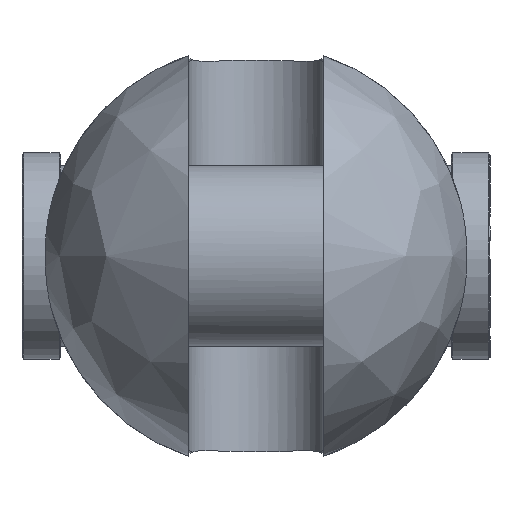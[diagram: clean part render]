
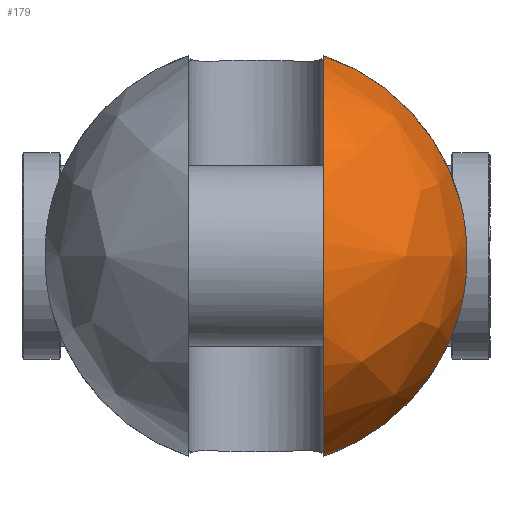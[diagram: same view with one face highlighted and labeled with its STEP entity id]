
A CAD part, left-side view. The second image highlights one B-rep face of the part: STEP entity #179.
In plain terms, the highlighted free-form (B-spline) face has degree [2, 2] with [9, 5] control points.
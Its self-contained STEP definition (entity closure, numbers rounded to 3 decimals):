
#179=ADVANCED_FACE('',(#320),#2412,.T.);
#320=FACE_OUTER_BOUND('',#481,.T.);
#481=EDGE_LOOP('',(#1192,#1193,#1194,#1195));
#1192=ORIENTED_EDGE('',*,*,#1574,.T.);
#1193=ORIENTED_EDGE('',*,*,#1600,.F.);
#1194=ORIENTED_EDGE('',*,*,#1612,.T.);
#1195=ORIENTED_EDGE('',*,*,#1592,.F.);
#1574=EDGE_CURVE('',#2244,#2243,#1979,.T.);
#1592=EDGE_CURVE('',#2244,#2256,#1989,.T.);
#1600=EDGE_CURVE('',#2263,#2243,#1990,.T.);
#1612=EDGE_CURVE('',#2263,#2256,#1786,.T.);
#1786=B_SPLINE_CURVE_WITH_KNOTS('',3,(#6134,#6135,#6136,#6137,#6138,#6139,
#6140,#6141,#6142,#6143,#6144,#6145,#6146,#6147),.UNSPECIFIED.,.F.,.F.,
(4,2,2,2,2,2,4),(0.,4.76,11.187,17.614,
24.04,30.467,35.227),.UNSPECIFIED.);
#1979=(
BOUNDED_CURVE()
B_SPLINE_CURVE(2,(#5890,#5891,#5892,#5893,#5894),.UNSPECIFIED.,.F.,.F.)
B_SPLINE_CURVE_WITH_KNOTS((3,2,3),(-194.912,-97.456,0.),
 .UNSPECIFIED.)
CURVE()
GEOMETRIC_REPRESENTATION_ITEM()
RATIONAL_B_SPLINE_CURVE((1.,0.707,1.,0.707,1.))
REPRESENTATION_ITEM('')
);
#1989=(
BOUNDED_CURVE()
B_SPLINE_CURVE(2,(#6004,#6005,#6006),.UNSPECIFIED.,.F.,.F.)
B_SPLINE_CURVE_WITH_KNOTS((3,3),(0.,64.69),.UNSPECIFIED.)
CURVE()
GEOMETRIC_REPRESENTATION_ITEM()
RATIONAL_B_SPLINE_CURVE((1.,0.881,1.))
REPRESENTATION_ITEM('')
);
#1990=(
BOUNDED_CURVE()
B_SPLINE_CURVE(2,(#6061,#6062,#6063),.UNSPECIFIED.,.F.,.F.)
B_SPLINE_CURVE_WITH_KNOTS((3,3),(0.,64.69),.UNSPECIFIED.)
CURVE()
GEOMETRIC_REPRESENTATION_ITEM()
RATIONAL_B_SPLINE_CURVE((1.,0.881,1.))
REPRESENTATION_ITEM('')
);
#2243=VERTEX_POINT('',#5762);
#2244=VERTEX_POINT('',#5763);
#2256=VERTEX_POINT('',#5775);
#2263=VERTEX_POINT('',#5782);
#2412=(
BOUNDED_SURFACE()
B_SPLINE_SURFACE(2,2,((#5476,#5477,#5478,#5479,#5480),(#5481,#5482,#5483,
#5484,#5485),(#5486,#5487,#5488,#5489,#5490),(#5491,#5492,#5493,#5494,#5495),
(#5496,#5497,#5498,#5499,#5500),(#5501,#5502,#5503,#5504,#5505),(#5506,
#5507,#5508,#5509,#5510),(#5511,#5512,#5513,#5514,#5515),(#5516,#5517,#5518,
#5519,#5520)),.UNSPECIFIED.,.T.,.F.,.F.)
B_SPLINE_SURFACE_WITH_KNOTS((3,2,2,2,3),(3,2,3),(0.,102.887,205.774,
308.661,411.549),(0.,102.887,205.774),
 .UNSPECIFIED.)
GEOMETRIC_REPRESENTATION_ITEM()
RATIONAL_B_SPLINE_SURFACE(((1.,0.707,1.,0.707,1.),
(0.707,0.5,0.707,0.5,0.707),(1.,0.707,
1.,0.707,1.),(0.707,0.5,0.707,0.5,0.707),
(1.,0.707,1.,0.707,1.),(0.707,0.5,0.707,
0.5,0.707),(1.,0.707,1.,0.707,1.),(0.707,
0.5,0.707,0.5,0.707),(1.,0.707,1.,0.707,
1.)))
REPRESENTATION_ITEM('')
SURFACE()
);
#5476=CARTESIAN_POINT('',(-94.,0.,0.));
#5477=CARTESIAN_POINT('',(-94.,65.5,0.));
#5478=CARTESIAN_POINT('',(-28.5,65.5,0.));
#5479=CARTESIAN_POINT('',(37.,65.5,0.));
#5480=CARTESIAN_POINT('',(37.,0.,0.));
#5481=CARTESIAN_POINT('',(-94.,0.,0.));
#5482=CARTESIAN_POINT('',(-94.,65.5,65.5));
#5483=CARTESIAN_POINT('',(-28.5,65.5,65.5));
#5484=CARTESIAN_POINT('',(37.,65.5,65.5));
#5485=CARTESIAN_POINT('',(37.,0.,0.));
#5486=CARTESIAN_POINT('',(-94.,0.,0.));
#5487=CARTESIAN_POINT('',(-94.,0.,65.5));
#5488=CARTESIAN_POINT('',(-28.5,0.,65.5));
#5489=CARTESIAN_POINT('',(37.,0.,65.5));
#5490=CARTESIAN_POINT('',(37.,0.,0.));
#5491=CARTESIAN_POINT('',(-94.,0.,0.));
#5492=CARTESIAN_POINT('',(-94.,-65.5,65.5));
#5493=CARTESIAN_POINT('',(-28.5,-65.5,65.5));
#5494=CARTESIAN_POINT('',(37.,-65.5,65.5));
#5495=CARTESIAN_POINT('',(37.,0.,0.));
#5496=CARTESIAN_POINT('',(-94.,0.,0.));
#5497=CARTESIAN_POINT('',(-94.,-65.5,0.));
#5498=CARTESIAN_POINT('',(-28.5,-65.5,0.));
#5499=CARTESIAN_POINT('',(37.,-65.5,0.));
#5500=CARTESIAN_POINT('',(37.,0.,0.));
#5501=CARTESIAN_POINT('',(-94.,0.,0.));
#5502=CARTESIAN_POINT('',(-94.,-65.5,-65.5));
#5503=CARTESIAN_POINT('',(-28.5,-65.5,-65.5));
#5504=CARTESIAN_POINT('',(37.,-65.5,-65.5));
#5505=CARTESIAN_POINT('',(37.,0.,0.));
#5506=CARTESIAN_POINT('',(-94.,0.,0.));
#5507=CARTESIAN_POINT('',(-94.,0.,-65.5));
#5508=CARTESIAN_POINT('',(-28.5,0.,-65.5));
#5509=CARTESIAN_POINT('',(37.,0.,-65.5));
#5510=CARTESIAN_POINT('',(37.,0.,0.));
#5511=CARTESIAN_POINT('',(-94.,0.,0.));
#5512=CARTESIAN_POINT('',(-94.,65.5,-65.5));
#5513=CARTESIAN_POINT('',(-28.5,65.5,-65.5));
#5514=CARTESIAN_POINT('',(37.,65.5,-65.5));
#5515=CARTESIAN_POINT('',(37.,0.,0.));
#5516=CARTESIAN_POINT('',(-94.,0.,0.));
#5517=CARTESIAN_POINT('',(-94.,65.5,0.));
#5518=CARTESIAN_POINT('',(-28.5,65.5,0.));
#5519=CARTESIAN_POINT('',(37.,65.5,0.));
#5520=CARTESIAN_POINT('',(37.,0.,0.));
#5762=CARTESIAN_POINT('',(-28.5,-21.,-62.042));
#5763=CARTESIAN_POINT('',(-28.5,-21.,62.042));
#5775=CARTESIAN_POINT('',(-28.5,-63.352,16.636));
#5782=CARTESIAN_POINT('',(-28.5,-63.352,-16.636));
#5890=CARTESIAN_POINT('',(-28.5,-21.,62.042));
#5891=CARTESIAN_POINT('',(-90.542,-21.,62.042));
#5892=CARTESIAN_POINT('',(-90.542,-21.,0.));
#5893=CARTESIAN_POINT('',(-90.542,-21.,-62.042));
#5894=CARTESIAN_POINT('',(-28.5,-21.,-62.042));
#6004=CARTESIAN_POINT('',(-28.5,-21.,62.042));
#6005=CARTESIAN_POINT('',(-28.5,-54.397,50.738));
#6006=CARTESIAN_POINT('',(-28.5,-63.352,16.636));
#6061=CARTESIAN_POINT('',(-28.5,-63.352,-16.636));
#6062=CARTESIAN_POINT('',(-28.5,-54.397,-50.738));
#6063=CARTESIAN_POINT('',(-28.5,-21.,-62.042));
#6134=CARTESIAN_POINT('',(-28.5,-63.352,-16.636));
#6135=CARTESIAN_POINT('',(-29.286,-63.706,-15.289));
#6136=CARTESIAN_POINT('',(-29.986,-64.018,-13.869));
#6137=CARTESIAN_POINT('',(-31.385,-64.638,-10.419));
#6138=CARTESIAN_POINT('',(-31.999,-64.907,-8.344));
#6139=CARTESIAN_POINT('',(-32.806,-65.261,-4.158));
#6140=CARTESIAN_POINT('',(-33.,-65.345,-2.047));
#6141=CARTESIAN_POINT('',(-33.,-65.345,2.047));
#6142=CARTESIAN_POINT('',(-32.806,-65.261,4.158));
#6143=CARTESIAN_POINT('',(-31.999,-64.907,8.344));
#6144=CARTESIAN_POINT('',(-31.385,-64.638,10.419));
#6145=CARTESIAN_POINT('',(-29.986,-64.018,13.869));
#6146=CARTESIAN_POINT('',(-29.286,-63.706,15.289));
#6147=CARTESIAN_POINT('',(-28.5,-63.352,16.636));
